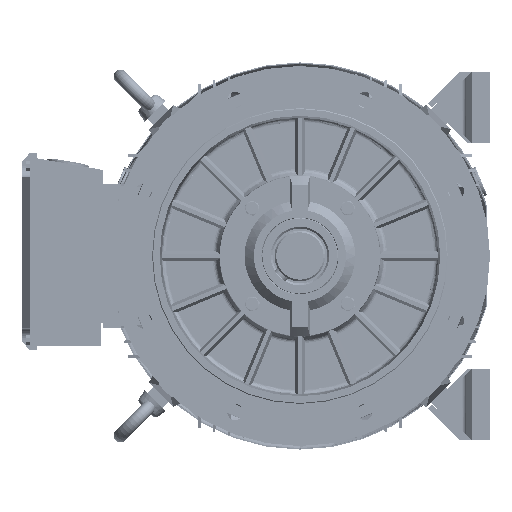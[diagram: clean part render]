
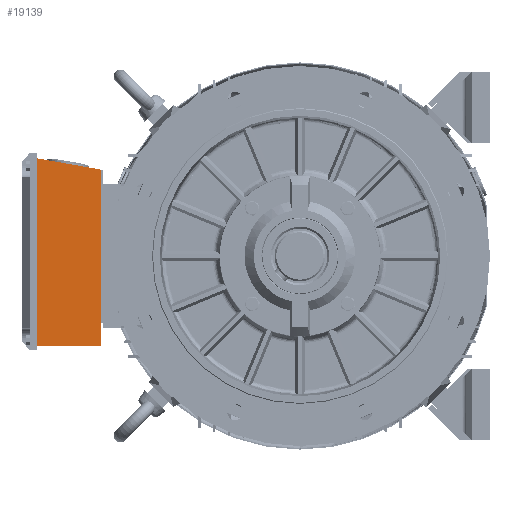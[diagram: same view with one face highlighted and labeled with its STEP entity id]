
A CAD part, left-side view. The second image highlights one B-rep face of the part: STEP entity #19139.
In plain terms, the highlighted planar face has unit normal (-1, 0, 0).
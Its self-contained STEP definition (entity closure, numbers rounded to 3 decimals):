
#11337 = VERTEX_POINT ( 'NONE', #238134 ) ;
#14606 = CARTESIAN_POINT ( 'NONE',  ( -30.206, 215.768, 102.18 ) ) ;
#19139 = ADVANCED_FACE ( 'NONE', ( #207409 ), #46258, .F. ) ;
#24962 = DIRECTION ( 'NONE',  ( 0., -1., 0. ) ) ;
#32149 = CARTESIAN_POINT ( 'NONE',  ( -30.206, 215.768, -106.82 ) ) ;
#35580 = VECTOR ( 'NONE', #172010, 1000. ) ;
#38960 = EDGE_CURVE ( 'NONE', #110118, #11337, #148090, .T. ) ;
#46258 = PLANE ( 'NONE',  #255674 ) ;
#52355 = CARTESIAN_POINT ( 'NONE',  ( -30.206, 215.768, -106.82 ) ) ;
#54842 = CARTESIAN_POINT ( 'NONE',  ( -30.206, 215.768, -106.82 ) ) ;
#61480 = ORIENTED_EDGE ( 'NONE', *, *, #229413, .T. ) ;
#67910 = DIRECTION ( 'NONE',  ( 0., 0., -1. ) ) ;
#71636 = VECTOR ( 'NONE', #145109, 1000. ) ;
#79685 = DIRECTION ( 'NONE',  ( 0., 0.985, 0.174 ) ) ;
#110118 = VERTEX_POINT ( 'NONE', #14606 ) ;
#112010 = LINE ( 'NONE', #162116, #185143 ) ;
#120683 = EDGE_CURVE ( 'NONE', #11337, #120746, #112010, .T. ) ;
#120746 = VERTEX_POINT ( 'NONE', #163588 ) ;
#123391 = LINE ( 'NONE', #32149, #35580 ) ;
#140504 = CARTESIAN_POINT ( 'NONE',  ( -30.206, 291.768, -106.82 ) ) ;
#145109 = DIRECTION ( 'NONE',  ( 0., 0., 1. ) ) ;
#148090 = LINE ( 'NONE', #170907, #162369 ) ;
#162116 = CARTESIAN_POINT ( 'NONE',  ( -30.206, 291.768, -106.82 ) ) ;
#162369 = VECTOR ( 'NONE', #79685, 1000. ) ;
#162675 = ORIENTED_EDGE ( 'NONE', *, *, #38960, .T. ) ;
#163588 = CARTESIAN_POINT ( 'NONE',  ( -30.206, 291.768, -106.82 ) ) ;
#170532 = ORIENTED_EDGE ( 'NONE', *, *, #120683, .T. ) ;
#170907 = CARTESIAN_POINT ( 'NONE',  ( -30.206, 215.768, 102.18 ) ) ;
#172010 = DIRECTION ( 'NONE',  ( 0., -1., 0. ) ) ;
#173807 = EDGE_LOOP ( 'NONE', ( #293083, #61480, #162675, #170532 ) ) ;
#179077 = VERTEX_POINT ( 'NONE', #54842 ) ;
#185143 = VECTOR ( 'NONE', #67910, 1000. ) ;
#207409 = FACE_OUTER_BOUND ( 'NONE', #173807, .T. ) ;
#215051 = LINE ( 'NONE', #52355, #71636 ) ;
#229413 = EDGE_CURVE ( 'NONE', #179077, #110118, #215051, .T. ) ;
#233238 = DIRECTION ( 'NONE',  ( 1., 0., 0. ) ) ;
#238134 = CARTESIAN_POINT ( 'NONE',  ( -30.206, 291.768, 115.581 ) ) ;
#243682 = EDGE_CURVE ( 'NONE', #120746, #179077, #123391, .T. ) ;
#255674 = AXIS2_PLACEMENT_3D ( 'NONE', #140504, #233238, #24962 ) ;
#293083 = ORIENTED_EDGE ( 'NONE', *, *, #243682, .T. ) ;
